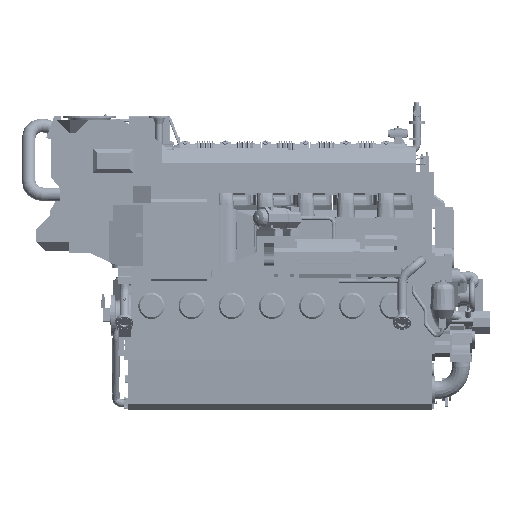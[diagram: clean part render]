
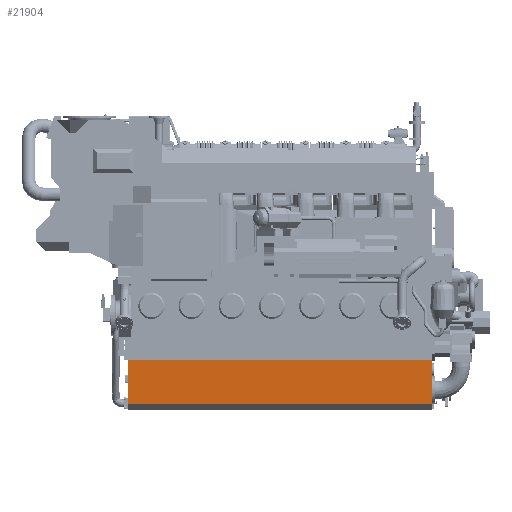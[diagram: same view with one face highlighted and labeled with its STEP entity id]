
A CAD part, front view. The second image highlights one B-rep face of the part: STEP entity #21904.
In plain terms, the highlighted planar face has unit normal (0, -0.999, -0.052).
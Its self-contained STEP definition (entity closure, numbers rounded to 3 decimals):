
#14208=FACE_OUTER_BOUND('',#66184,.T.);
#21904=ADVANCED_FACE('',(#14208),#29859,.F.);
#29859=PLANE('',#156262);
#37133=LINE('',#264729,#50407);
#37147=LINE('',#264764,#50421);
#37157=LINE('',#264789,#50431);
#37158=LINE('',#264791,#50432);
#50407=VECTOR('',#176167,1.);
#50421=VECTOR('',#176189,1.);
#50431=VECTOR('',#176211,1.);
#50432=VECTOR('',#176214,1.);
#66184=EDGE_LOOP('',(#84106,#84107,#84108,#84109));
#84106=ORIENTED_EDGE('',*,*,#133612,.T.);
#84107=ORIENTED_EDGE('',*,*,#133626,.F.);
#84108=ORIENTED_EDGE('',*,*,#133595,.F.);
#84109=ORIENTED_EDGE('',*,*,#133625,.T.);
#118412=VERTEX_POINT('',#264728);
#118413=VERTEX_POINT('',#264730);
#118429=VERTEX_POINT('',#264763);
#118430=VERTEX_POINT('',#264765);
#133595=EDGE_CURVE('',#118412,#118413,#37133,.T.);
#133612=EDGE_CURVE('',#118430,#118429,#37147,.T.);
#133625=EDGE_CURVE('',#118412,#118430,#37157,.T.);
#133626=EDGE_CURVE('',#118413,#118429,#37158,.T.);
#156262=AXIS2_PLACEMENT_3D('',#264792,#176215,#176216);
#176167=DIRECTION('',(0.,-0.052,0.999));
#176189=DIRECTION('',(0.,-0.052,0.999));
#176211=DIRECTION('',(1.,0.,0.));
#176214=DIRECTION('',(1.,0.,0.));
#176215=DIRECTION('',(0.,0.999,0.052));
#176216=DIRECTION('',(0.,-0.052,0.999));
#264728=CARTESIAN_POINT('',(-3710.,-412.339,-1079.568));
#264729=CARTESIAN_POINT('',(-3710.,-412.339,-1079.568));
#264730=CARTESIAN_POINT('',(-3710.,-440.25,-545.));
#264763=CARTESIAN_POINT('',(0.,-440.25,-545.));
#264764=CARTESIAN_POINT('',(0.,-412.339,-1079.568));
#264765=CARTESIAN_POINT('',(0.,-412.339,-1079.568));
#264789=CARTESIAN_POINT('',(-3710.,-412.339,-1079.568));
#264791=CARTESIAN_POINT('',(-3710.,-440.25,-545.));
#264792=CARTESIAN_POINT('',(-3710.,-412.339,-1079.568));
